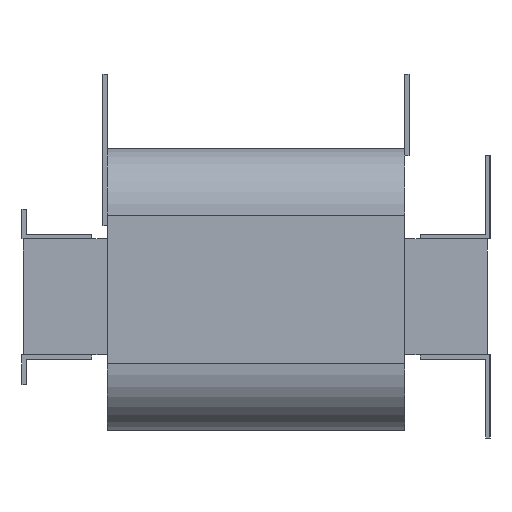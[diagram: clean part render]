
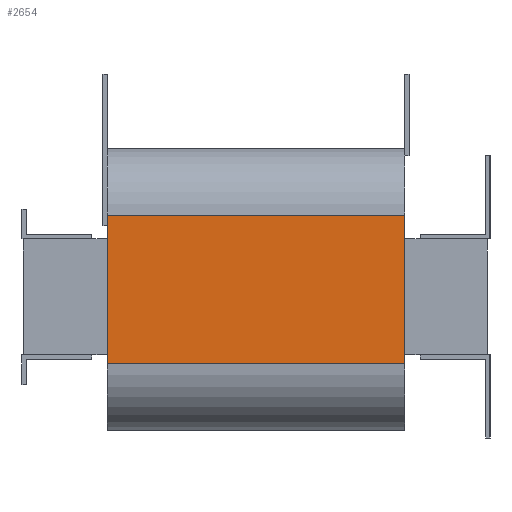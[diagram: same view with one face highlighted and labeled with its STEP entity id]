
A CAD part, left-side view. The second image highlights one B-rep face of the part: STEP entity #2654.
In plain terms, the highlighted planar face has unit normal (-1, 0, 0).
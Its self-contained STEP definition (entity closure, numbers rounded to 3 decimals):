
#114=PLANE('',#2858);
#243=FACE_OUTER_BOUND('',#393,.T.);
#393=EDGE_LOOP('',(#2278,#2279,#2280,#2281));
#670=LINE('',#4169,#996);
#689=LINE('',#4219,#1015);
#690=LINE('',#4222,#1016);
#691=LINE('',#4223,#1017);
#996=VECTOR('',#3404,10.);
#1015=VECTOR('',#3449,10.);
#1016=VECTOR('',#3452,10.);
#1017=VECTOR('',#3453,10.);
#1331=VERTEX_POINT('',#4166);
#1332=VERTEX_POINT('',#4168);
#1350=VERTEX_POINT('',#4217);
#1351=VERTEX_POINT('',#4221);
#1661=EDGE_CURVE('',#1331,#1332,#670,.T.);
#1687=EDGE_CURVE('',#1350,#1331,#689,.T.);
#1688=EDGE_CURVE('',#1350,#1351,#690,.T.);
#1689=EDGE_CURVE('',#1332,#1351,#691,.T.);
#2278=ORIENTED_EDGE('',*,*,#1687,.F.);
#2279=ORIENTED_EDGE('',*,*,#1688,.T.);
#2280=ORIENTED_EDGE('',*,*,#1689,.F.);
#2281=ORIENTED_EDGE('',*,*,#1661,.F.);
#2654=ADVANCED_FACE('',(#243),#114,.T.);
#2858=AXIS2_PLACEMENT_3D('',#4220,#3450,#3451);
#3404=DIRECTION('',(0.,0.,1.));
#3449=DIRECTION('',(0.,1.,0.));
#3450=DIRECTION('center_axis',(-1.,0.,0.));
#3451=DIRECTION('ref_axis',(0.,0.,1.));
#3452=DIRECTION('',(0.,0.,1.));
#3453=DIRECTION('',(0.,-1.,0.));
#4166=CARTESIAN_POINT('',(-246.,257.5,-45.));
#4168=CARTESIAN_POINT('',(-246.,257.5,55.));
#4169=CARTESIAN_POINT('',(-246.,257.5,-90.));
#4217=CARTESIAN_POINT('',(-246.,57.5,-45.));
#4219=CARTESIAN_POINT('',(-246.,57.5,-45.));
#4220=CARTESIAN_POINT('Origin',(-246.,57.5,-90.));
#4221=CARTESIAN_POINT('',(-246.,57.5,55.));
#4222=CARTESIAN_POINT('',(-246.,57.5,-90.));
#4223=CARTESIAN_POINT('',(-246.,57.5,55.));
